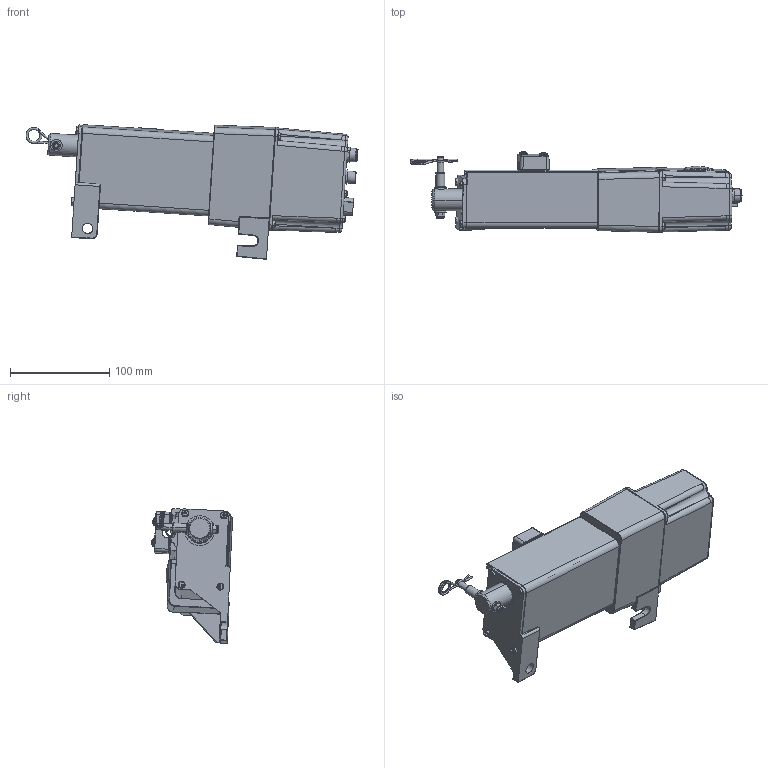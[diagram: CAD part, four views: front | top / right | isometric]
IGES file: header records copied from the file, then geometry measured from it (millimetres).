
Global section: file name: No Iges File Name specified; native system: Autodesk Inventor 2011; preprocessor: AutoDesk Inventor Iges Exporter R2011; author: Trivella; date: 20120413.114740; units: millimetre
Bounding box: 333.99 x 81.48 x 135.45 mm (x, y, z)
Volume: 305052.2 mm3; surface area: 225060.9 mm2
Topology: 46 solids, 46 shells, 1692 faces, 4263 edges, 2661 vertices
Faces by surface type: plane 658, revolution 290, cylinder 278, bspline 244, cone 139, torus 66, sphere 17
